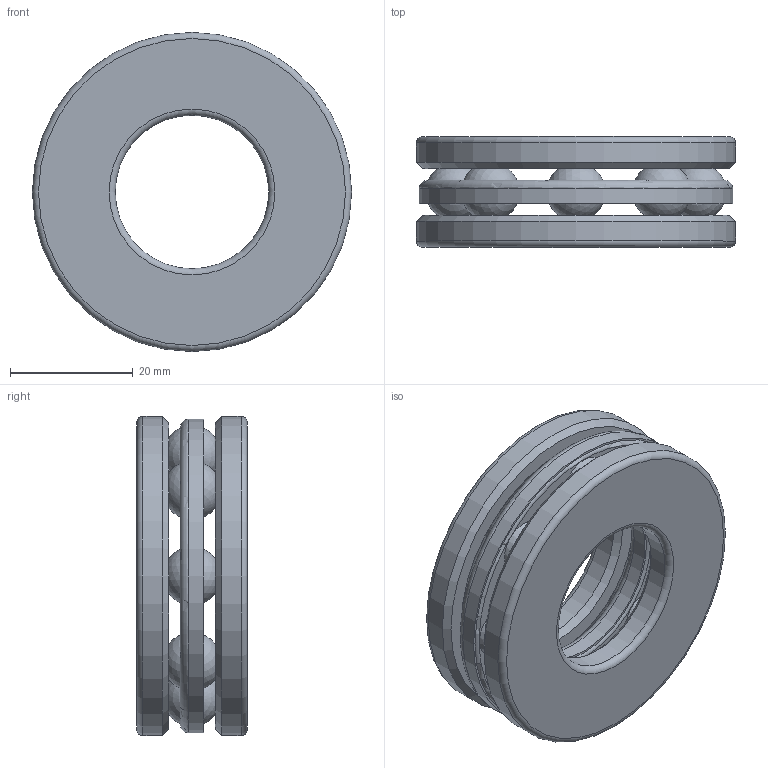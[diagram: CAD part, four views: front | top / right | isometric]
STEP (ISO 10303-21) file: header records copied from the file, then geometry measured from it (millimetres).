
FILE_DESCRIPTION(/* description */ (''),/* implementation_level */ '2;1');
FILE_NAME(/* name */ 'D:\moje\parametrické\513--\513--\51305.stp',/* time_stamp */ '2016-08-17T07:35:57+02:00',/* author */ ('OUBALASKO'),/* organization */ (''),/* preprocessor_version */ 'ST-DEVELOPER v15.6',/* originating_system */ 'Autodesk Inventor 2015',/* authorisation */ '');
FILE_SCHEMA (('AUTOMOTIVE_DESIGN { 1 0 10303 214 3 1 1 }'));
Length unit declared in the file: millimetre
Products named in the file (7): 51305-TK; 51305-HK; 51305-ball; 51305-cage01; 51305-cage02; 51305-cage; 51305
Assembly tree (13 placements, depth 3):
  51305
    51305-TK
    51305-HK
    51305-ball  x8
    51305-cage
      51305-cage01
      51305-cage02
Bounding box: 52 x 18 x 52 mm (x, y, z)
Volume: 19853.5 mm3; surface area: 17007.3 mm2
Topology: 12 solids, 12 shells, 114 faces, 242 edges, 140 vertices
Faces by surface type: plane 60, sphere 24, torus 14, cylinder 12, cone 4
Full cylindrical faces by diameter (mm): 25 x1, 27 x1, 27.965 x1, 28.632 x1, 28.88 x1, 29.546 x1, 49.454 x1, 50.12 x1, 50.368 x1, 51.035 x1, 52 x2
Entity records: 2956 total; most frequent: DIRECTION 624, CARTESIAN_POINT 434, ORIENTED_EDGE 370, AXIS2_PLACEMENT_3D 312, CIRCLE 185, EDGE_CURVE 185, EDGE_LOOP 181, VERTEX_POINT 122
